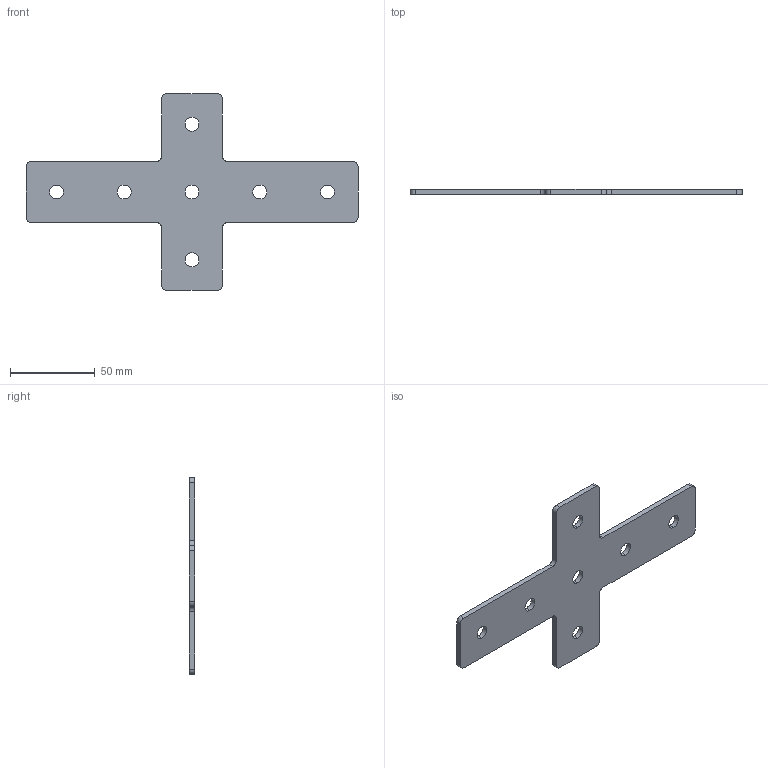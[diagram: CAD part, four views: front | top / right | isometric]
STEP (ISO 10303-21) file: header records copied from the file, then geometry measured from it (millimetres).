
FILE_DESCRIPTION (( 'STEP AP203' ), '1' );
FILE_NAME ('ﾕ-7-40.STEP', '2016-07-23T09:38:58', ( '' ), ( '' ), 'SwSTEP 2.0', 'SolidWorks 2014', '' );
FILE_SCHEMA (( 'CONFIG_CONTROL_DESIGN' ));
Length unit declared in the file: millimetre
Products named in the file (1): ﾕ-7-40
Bounding box: 196 x 3 x 116 mm (x, y, z)
Surface area: 21483.8 mm2 (no closed solid volume)
Topology: 0 solids, 1 shells, 40 faces, 114 edges, 76 vertices
Faces by surface type: cylinder 26, plane 14
Entity records: 1435 total; most frequent: DIRECTION 248, CARTESIAN_POINT 231, ORIENTED_EDGE 228, EDGE_CURVE 114, AXIS2_PLACEMENT_3D 93, VERTEX_POINT 76, LINE 62, VECTOR 62
